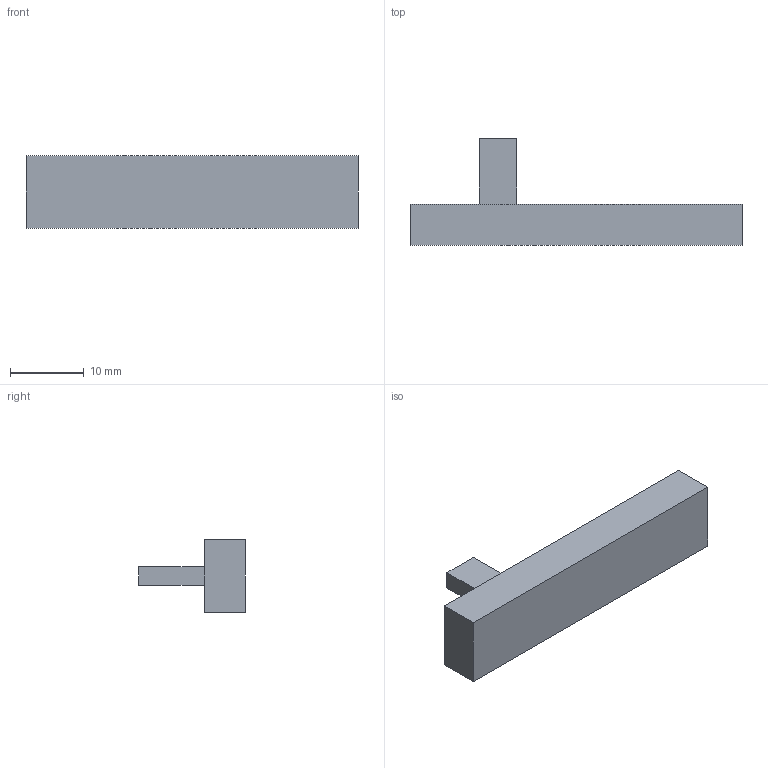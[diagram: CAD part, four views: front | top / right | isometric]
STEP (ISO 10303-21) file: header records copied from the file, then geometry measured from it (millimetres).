
FILE_DESCRIPTION (( 'STEP AP203' ), '1' );
FILE_NAME ('Small_Linear_Pot.step', '2015-03-14T23:36:28', ( '' ), ( '' ), 'SwSTEP 2.0', 'SolidWorks 2013', '' );
FILE_SCHEMA (( 'CONFIG_CONTROL_DESIGN' ));
Length unit declared in the file: inch
Products named in the file (1): Small_Linear_Pot
Bounding box: 45.09 x 14.48 x 9.8 mm (x, y, z)
Volume: 2482.4 mm3; surface area: 1726.5 mm2
Topology: 1 solids, 1 shells, 19 faces, 44 edges, 28 vertices
Faces by surface type: plane 19
Entity records: 605 total; most frequent: CARTESIAN_POINT 92, ORIENTED_EDGE 88, DIRECTION 84, LINE 44, EDGE_CURVE 44, VECTOR 44, VERTEX_POINT 28, EDGE_LOOP 20
